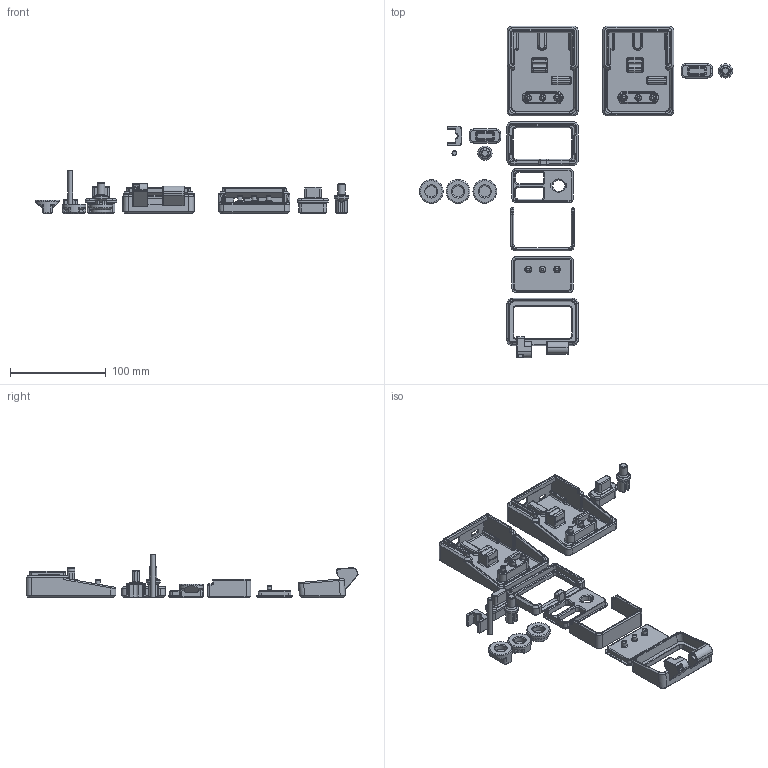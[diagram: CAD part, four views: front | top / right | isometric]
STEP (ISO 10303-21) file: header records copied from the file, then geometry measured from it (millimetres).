
FILE_DESCRIPTION(/* description */ (''),/* implementation_level */ '2;1');
FILE_NAME(/* name */ 'Polypedal.step',/* time_stamp */ '2025-10-04T13:41:56-07:00',/* author */ (''),/* organization */ (''),/* preprocessor_version */ 'ST-DEVELOPER v20.1',/* originating_system */ 'Autodesk Translation Framework v14.17.0.0',/* authorisation */ '');
FILE_SCHEMA (('AUTOMOTIVE_DESIGN { 1 0 10303 214 3 1 1 }'));
Length unit declared in the file: millimetre
Products named in the file (20): Polypedal; PSK Components; Case Shell (Bottom) (PSK); Round Action Button Mount (PSK); Action Button (PSK); DIY Components; Case Shell (Bottom) (DIY); Round Action Button Mount (DIY); Action Button Button (DIY); Universal Assembly Components; Case Shell (Top); Action Button Chassis; Pedal Hinge; Pedal Hinge Plate; Pivot Rod; Pivot Rod Clip; Dust Guard; Round Action Button A; Round Action Button B; Round Action Button C
Assembly tree (19 placements, depth 3):
  Polypedal
    PSK Components
      Case Shell (Bottom) (PSK)
      Round Action Button Mount (PSK)
      Action Button (PSK)
    DIY Components
      Case Shell (Bottom) (DIY)
      Round Action Button Mount (DIY)
      Action Button Button (DIY)
    Universal Assembly Components
      Case Shell (Top)
      Action Button Chassis
      Pedal Hinge
      Pedal Hinge Plate
      Pivot Rod
      Pivot Rod Clip
      Dust Guard
      Round Action Button A
      Round Action Button B
      Round Action Button C
Bounding box: 327.53 x 347.25 x 45.15 mm (x, y, z)
Volume: 198634.4 mm3; surface area: 108178 mm2
Topology: 16 solids, 16 shells, 1533 faces, 3556 edges, 2081 vertices
Faces by surface type: plane 555, cylinder 533, cone 188, torus 157, bspline 70, sphere 30
Full cylindrical faces by diameter (mm): 5 x10, 5.3 x2, 8 x2, 11.8 x3, 14.8 x2, 24.75 x3
Entity records: 45161 total; most frequent: CARTESIAN_POINT 9404, DIRECTION 7859, ORIENTED_EDGE 7112, EDGE_CURVE 3556, AXIS2_PLACEMENT_3D 2944, VERTEX_POINT 2081, LINE 1971, VECTOR 1971
